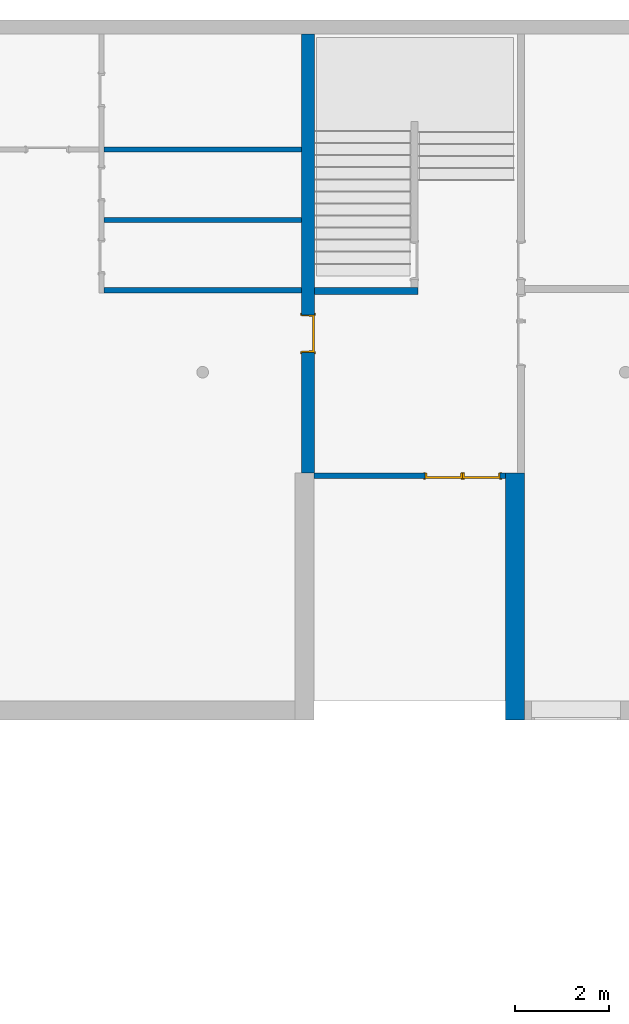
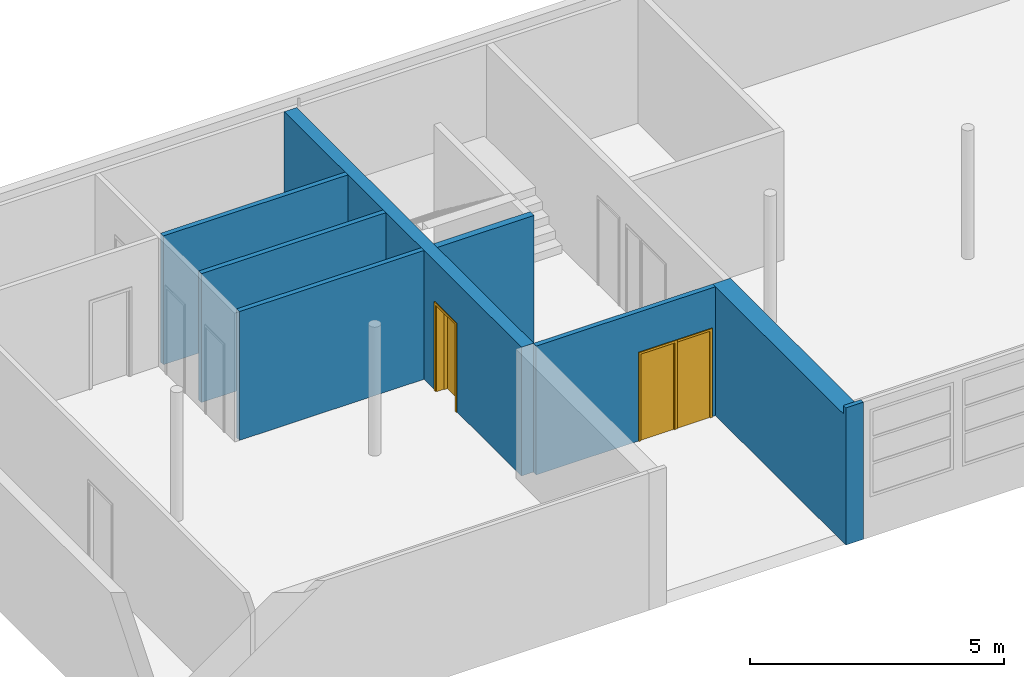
# One storey, part 14 of 25: 7 walls, 3 doors, 3 openings.
"""IFC2X3 building model written with IfcOpenShell, lengths in millimetres."""

from ifc_helpers import new_model, entity, si_unit, converted_unit, derived_unit, money_unit, direction, frame, origin_with_axes, place, context, subcontext, project, spatial, faceted_brep, material, type_object, element, fill, save


model = new_model("IFC2X3")

# Units and contexts
model_context = context("Model", 3, precision=0.01, world=origin_with_axes(), true_north=direction((0.0, 1.0)))
body_context = subcontext(model_context, "Body", "Model", "MODEL_VIEW")
ifc_project = project(units=[si_unit("LENGTHUNIT", "METRE", prefix="MILLI"), si_unit("AREAUNIT", "SQUARE_METRE"), si_unit("VOLUMEUNIT", "CUBIC_METRE"), converted_unit("PLANEANGLEUNIT", "DEGREE", entity("IfcPlaneAngleMeasure", 0.0174532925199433), si_unit("PLANEANGLEUNIT", "RADIAN"), dimensions=[0, 0, 0, 0, 0, 0, 0]), money_unit("USD"), converted_unit("TIMEUNIT", "Year", entity("IfcTimeMeasure", 31557600.0), si_unit("TIMEUNIT", "SECOND"), dimensions=[0, 0, 1, 0, 0, 0, 0]), si_unit("MASSUNIT", "GRAM", prefix="KILO"), si_unit("THERMODYNAMICTEMPERATUREUNIT", "DEGREE_CELSIUS"), si_unit("LUMINOUSINTENSITYUNIT", "LUMEN"), si_unit("ENERGYUNIT", "JOULE", prefix="MEGA"), derived_unit("THERMALCONDUCTANCEUNIT", [(si_unit("POWERUNIT", "WATT"), 1), (si_unit("LENGTHUNIT", "METRE"), -1), (si_unit("THERMODYNAMICTEMPERATUREUNIT", "KELVIN"), -1)]), derived_unit("SPECIFICHEATCAPACITYUNIT", [(si_unit("ENERGYUNIT", "JOULE"), 1), (si_unit("MASSUNIT", "GRAM", prefix="KILO"), -1), (si_unit("THERMODYNAMICTEMPERATUREUNIT", "KELVIN"), -1)]), derived_unit("MASSDENSITYUNIT", [(si_unit("MASSUNIT", "GRAM", prefix="KILO"), 1), (si_unit("VOLUMEUNIT", "CUBIC_METRE"), -1)])], contexts=[model_context])

# Site, building, storey
site_placement = place(None, origin_with_axes())
site = spatial("IfcSite", under=ifc_project, at=site_placement, Name="Site", CompositionType="ELEMENT")
building_placement = place(site_placement, origin_with_axes())
building = spatial("IfcBuilding", under=site, at=building_placement, Name="Building", CompositionType="ELEMENT")
storey_placement = place(building_placement, origin_with_axes())
storey = spatial("IfcBuildingStorey", under=building, at=storey_placement, Name="U ETG", CompositionType="ELEMENT", Elevation=0.0)

# Walls
ifc_material_1 = material(Name="GENERIC - INTERNAL FILLER")
wall_type_1 = type_object("IfcWallType", Name="GENERIC - INTERNAL FILLER 110", PredefinedType="NOTDEFINED")
wall_1_placement = place(storey_placement, frame((15900.00000000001, 16300.0, 0.0), z_axis=(0.0, 0.0, 1.0), x_axis=(1.0, 0.0, 0.0)))
element("IfcWall", 1, at=wall_1_placement, inside=storey, type_object=wall_type_1, material=ifc_material_1, Name="SW - 001", context=body_context, shape_type="Brep", body=[
    faceted_brep([(0.0, -109.9999999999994, 3100.0), (4200.000000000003, -109.9999999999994, 3100.0), (4200.000000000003, 0.0, 3100.0), (0.0, 0.0, 3100.0), (0.0, -109.9999999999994, 0.0), (4200.000000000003, -109.9999999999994, 0.0), (4200.000000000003, 0.0, 0.0), (0.0, 0.0, 0.0)], [[[0, 1, 2, 3]], [[4, 5, 1, 0]], [[5, 6, 2, 1]], [[3, 2, 6, 7]], [[4, 0, 3, 7]], [[7, 6, 5, 4]]]),
])
for number, where, z_axis, x_axis, name in (
    (2, (15900.00000000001, 19300.0, 0.0), (0.0, 0.0, 1.0), (1.0, 0.0, 0.0), "SW - 001"),
    (3, (15900.00000000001, 17800.0, 0.0), (0.0, 0.0, 1.0), (1.0, 0.0, 0.0), "SW - 001"),
):
    element("IfcWall", number, at=place(storey_placement, frame(where, z_axis=z_axis, x_axis=x_axis)), inside=storey, type_object=wall_type_1, material=ifc_material_1, Name=name, context=body_context, shape_type="Brep", body=[
        faceted_brep([(4200.000000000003, -109.9999999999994, 3100.0), (4200.000000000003, 0.0, 3100.0), (0.0, 0.0, 3100.0), (0.0, -109.9999999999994, 3100.0), (4200.000000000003, -109.9999999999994, 0.0), (4200.000000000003, 0.0, 0.0), (0.0, 0.0, 0.0), (0.0, -109.9999999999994, 0.0)], [[[0, 1, 2, 3]], [[1, 0, 4, 5]], [[1, 5, 6, 2]], [[7, 3, 2, 6]], [[4, 0, 3, 7]], [[5, 4, 7, 6]]]),
    ])
ifc_material_2 = material(Name="GENERIC - STRUCTURAL")
wall_type_2 = type_object("IfcWallType", Name="GENERIC - STRUCTURAL 400", PredefinedType="NOTDEFINED")
wall_2_placement = place(storey_placement, frame((24849.99999999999, 12349.5709291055, 0.0), z_axis=(0.0, 0.0, 1.0), x_axis=(0.0, -1.0, 0.0)))
element("IfcWall", 4, at=wall_2_placement, inside=storey, type_object=wall_type_2, material=ifc_material_2, Name="SW - 001", context=body_context, shape_type="Brep", body=[
    faceted_brep([(0.0, -399.9999999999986, 0.0), (0.0, -399.9999999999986, 3100.0), (0.0, 0.0, 3100.0), (0.0, 0.0, 0.0), (5149.695952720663, -400.0000000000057, 3300.0), (5149.695952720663, -399.9999999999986, 3100.0), (5250.000000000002, -400.0000000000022, 0.0), (5250.000000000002, -400.0000000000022, 3300.0), (5149.695952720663, 0.0, 3100.0), (5149.695952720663, 0.0, 3300.0), (5250.000000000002, 0.0, 3300.0), (5250.000000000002, 0.0, 0.0)], [[[0, 1, 2, 3]], [[4, 5, 1, 0, 6, 7]], [[5, 8, 2, 1]], [[2, 8, 9, 10, 11, 3]], [[3, 11, 6, 0]], [[5, 4, 9, 8]], [[7, 6, 11, 10]], [[10, 9, 4, 7]]]),
])

# Wall, openings, doors
wall_type_3 = type_object("IfcWallType", Name="GENERIC - STRUCTURAL 110", PredefinedType="NOTDEFINED")
wall_3_placement = place(storey_placement, frame((19970.0, 12349.5709291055, 0.0), z_axis=(0.0, 0.0, 1.0), x_axis=(1.0, 0.0, 0.0)))
wall_3 = element("IfcWall", 5, at=wall_3_placement, inside=storey, type_object=wall_type_3, material=ifc_material_2, Name="SW - 001", context=body_context, shape_type="Brep", body=[
    faceted_brep([(3563.53347898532, -109.9999999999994, 2100.0), (2763.533478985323, -109.9999999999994, 2100.0), (2763.533478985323, 0.0, 2100.0), (3563.53347898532, 0.0, 2100.0), (4363.533478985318, 0.0, 2100.0), (4363.533478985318, -109.9999999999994, 2100.0), (4363.533478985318, -109.9999999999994, 0.0), (4479.999999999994, -109.9999999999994, 0.0), (4479.999999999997, -109.9999999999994, 3100.0), (399.9999999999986, -109.9999999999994, 3100.0), (399.9999999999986, -109.9999999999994, 0.0), (2763.533478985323, -109.9999999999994, 0.0), (2763.533478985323, 0.0, 0.0), (399.9999999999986, 0.0, 0.0), (399.9999999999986, 0.0, 3100.0), (4479.999999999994, 0.0, 3100.0), (4479.999999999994, 0.0, 0.0), (4363.533478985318, 0.0, 0.0)], [[[0, 1, 2, 3, 4, 5]], [[1, 0, 5, 6, 7, 8, 9, 10, 11]], [[12, 2, 1, 11]], [[2, 12, 13, 14, 15, 16, 17, 4, 3]], [[17, 6, 5, 4]], [[17, 16, 7, 6]], [[8, 7, 16, 15]], [[15, 14, 9, 8]], [[14, 13, 10, 9]], [[12, 11, 10, 13]]]),
])
opening_1_placement = place(wall_3_placement, frame((3963.533478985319, 0.0, 0.0), z_axis=(0.0, 0.0, 1.0), x_axis=(1.0, 0.0, 0.0)))
opening_1 = element("IfcOpeningElement", 6, at=opening_1_placement, cuts=wall_3, Name="DOO - 002", context=body_context, shape_type="Brep", body=[
    faceted_brep([(-399.9999999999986, -109.9999999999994, 2100.0), (399.9999999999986, -109.9999999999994, 2100.0), (399.9999999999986, 0.0, 2100.0), (-399.9999999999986, 0.0, 2100.0), (399.9999999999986, -109.9999999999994, 0.0), (-399.9999999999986, -109.9999999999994, 0.0), (-437.0000000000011, -109.9999999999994, 0.0), (-437.0000000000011, -109.9999999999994, 2137.0), (437.0000000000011, -109.9999999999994, 2137.0), (437.0000000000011, -109.9999999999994, 0.0), (399.9999999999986, 0.0, 0.0), (437.0000000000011, 0.0, 0.0), (437.0000000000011, 0.0, 2137.0), (-437.0000000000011, 0.0, 2137.0), (-437.0000000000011, 0.0, 0.0), (-399.9999999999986, 0.0, 0.0), (-399.9999999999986, -110.9999999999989, 0.0), (-437.0000000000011, -110.9999999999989, 0.0), (-437.0000000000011, -110.9999999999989, 2137.0), (437.0000000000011, -110.9999999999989, 2137.0), (437.0000000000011, -110.9999999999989, 0.0), (399.9999999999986, -110.9999999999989, 0.0), (-399.9999999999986, 0.9999999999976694, 0.0), (399.9999999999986, 0.9999999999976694, 0.0), (437.0000000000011, 0.9999999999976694, 0.0), (437.0000000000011, 0.9999999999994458, 2137.0), (-437.0000000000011, 0.9999999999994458, 2137.0), (-437.0000000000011, 0.9999999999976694, 0.0), (-399.9999999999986, -110.9999999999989, 2100.0), (399.9999999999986, -110.9999999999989, 2100.0)], [[[0, 1, 2, 3]], [[4, 1, 0, 5, 6, 7, 8, 9]], [[1, 4, 10, 2]], [[3, 2, 10, 11, 12, 13, 14, 15]], [[5, 0, 3, 15]], [[5, 16, 17, 6]], [[7, 6, 17, 18]], [[8, 7, 18, 19]], [[9, 8, 19, 20]], [[21, 4, 9, 20]], [[16, 5, 15, 22, 23, 10, 4, 21]], [[10, 23, 24, 11]], [[12, 11, 24, 25]], [[13, 12, 25, 26]], [[14, 13, 26, 27]], [[22, 15, 14, 27]], [[28, 29, 21, 20, 19, 18, 17, 16]], [[23, 22, 27, 26, 25, 24]], [[28, 16, 21, 29]]]),
])
opening_2_placement = place(wall_3_placement, frame((3163.533478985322, 0.0, 0.0), z_axis=(0.0, 0.0, 1.0), x_axis=(1.0, 0.0, 0.0)))
opening_2 = element("IfcOpeningElement", 7, at=opening_2_placement, cuts=wall_3, Name="DOO - 002", context=body_context, shape_type="Brep", body=[
    faceted_brep([(-399.9999999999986, -109.9999999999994, 2100.0), (399.9999999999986, -109.9999999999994, 2100.0), (399.9999999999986, 0.0, 2100.0), (-399.9999999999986, 0.0, 2100.0), (399.9999999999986, -109.9999999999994, 0.0), (-399.9999999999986, -109.9999999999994, 0.0), (-437.0000000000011, -109.9999999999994, 0.0), (-437.0000000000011, -109.9999999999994, 2137.0), (437.0000000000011, -109.9999999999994, 2137.0), (437.0000000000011, -109.9999999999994, 0.0), (399.9999999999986, 0.0, 0.0), (437.0000000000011, 0.0, 0.0), (437.0000000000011, 0.0, 2137.0), (-437.0000000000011, 0.0, 2137.0), (-437.0000000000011, 0.0, 0.0), (-399.9999999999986, 0.0, 0.0), (-399.9999999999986, -110.9999999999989, 0.0), (-437.0000000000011, -110.9999999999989, 0.0), (-437.0000000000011, -110.9999999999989, 2137.0), (437.0000000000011, -110.9999999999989, 2137.0), (437.0000000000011, -110.9999999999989, 0.0), (399.9999999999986, -110.9999999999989, 0.0), (-399.9999999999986, 0.9999999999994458, 0.0), (399.9999999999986, 0.9999999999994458, 0.0), (437.0000000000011, 0.9999999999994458, 0.0), (437.0000000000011, 1.000000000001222, 2137.0), (-437.0000000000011, 1.000000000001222, 2137.0), (-437.0000000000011, 0.9999999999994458, 0.0), (-399.9999999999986, -110.9999999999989, 2100.0), (399.9999999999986, -110.9999999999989, 2100.0)], [[[0, 1, 2, 3]], [[4, 1, 0, 5, 6, 7, 8, 9]], [[1, 4, 10, 2]], [[3, 2, 10, 11, 12, 13, 14, 15]], [[5, 0, 3, 15]], [[5, 16, 17, 6]], [[7, 6, 17, 18]], [[8, 7, 18, 19]], [[9, 8, 19, 20]], [[21, 4, 9, 20]], [[16, 5, 15, 22, 23, 10, 4, 21]], [[10, 23, 24, 11]], [[12, 11, 24, 25]], [[13, 12, 25, 26]], [[14, 13, 26, 27]], [[22, 15, 14, 27]], [[28, 29, 21, 20, 19, 18, 17, 16]], [[23, 22, 27, 26, 25, 24]], [[28, 16, 21, 29]]]),
])
door_style_1 = type_object("IfcDoorStyle", Name="Dør", ConstructionType="NOTDEFINED", OperationType="SINGLE_SWING_LEFT", ParameterTakesPrecedence=False, Sizeable=False)
door_1_placement = place(opening_1_placement, frame((399.9999999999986, 0.0, 0.0), z_axis=(0.0, 0.0, 1.0), x_axis=(-1.0, 0.0, 0.0)))
door_1 = element("IfcDoor", 8, at=door_1_placement, inside=storey, type_object=door_style_1, Name="DOO - 002", ObjectType="DOOR", OverallHeight=2100.0, OverallWidth=800.0, context=body_context, shape_type="Brep", body=[
    faceted_brep([(836.9999999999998, -19.00000000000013, 0.0), (786.9999999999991, -19.00000000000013, 0.0), (786.9999999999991, 0.0, 0.0), (836.9999999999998, 0.0, 0.0), (836.9999999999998, -19.0000000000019, 2137.0), (786.9999999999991, -19.0000000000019, 2087.0), (786.9999999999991, 0.0, 2087.0), (836.9999999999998, 0.0, 2137.0)], [[[0, 1, 2, 3]], [[0, 4, 5, 1]], [[1, 5, 6, 2]], [[3, 2, 6, 7]], [[4, 0, 3, 7]], [[5, 4, 7, 6]]]),
    faceted_brep([(-37.00000000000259, -19.00000000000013, 2137.0), (12.99999999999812, -19.00000000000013, 2087.0), (12.99999999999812, 0.0, 2087.0), (-37.00000000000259, 0.0, 2137.0), (-37.00000000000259, -19.00000000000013, 0.0), (12.99999999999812, -19.00000000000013, 0.0), (12.99999999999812, 0.0, 0.0), (-37.00000000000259, 0.0, 0.0)], [[[0, 1, 2, 3]], [[0, 4, 5, 1]], [[1, 5, 6, 2]], [[3, 2, 6, 7]], [[4, 0, 3, 7]], [[5, 4, 7, 6]]]),
    faceted_brep([(836.9999999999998, -19.0000000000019, 2137.0), (786.9999999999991, -19.0000000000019, 2087.0), (786.9999999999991, 0.0, 2087.0), (836.9999999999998, 0.0, 2137.0), (-37.00000000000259, -19.00000000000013, 2137.0), (12.99999999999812, -19.00000000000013, 2087.0), (12.99999999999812, 0.0, 2087.0), (-37.00000000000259, 0.0, 2137.0)], [[[0, 1, 2, 3]], [[0, 4, 5, 1]], [[1, 5, 6, 2]], [[3, 2, 6, 7]], [[4, 0, 3, 7]], [[5, 4, 7, 6]]]),
    faceted_brep([(836.9999999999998, 128.9999999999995, 0.0), (836.9999999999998, 109.9999999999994, 0.0), (786.9999999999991, 109.9999999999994, 0.0), (786.9999999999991, 128.9999999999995, 0.0), (836.9999999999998, 128.9999999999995, 2137.0), (836.9999999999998, 109.9999999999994, 2137.0), (786.9999999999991, 109.9999999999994, 2087.0), (786.9999999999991, 128.9999999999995, 2087.0)], [[[0, 1, 2, 3]], [[4, 5, 1, 0]], [[1, 5, 6, 2]], [[3, 2, 6, 7]], [[0, 3, 7, 4]], [[7, 6, 5, 4]]]),
    faceted_brep([(-37.00000000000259, 128.9999999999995, 2137.0), (-37.00000000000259, 109.9999999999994, 2137.0), (12.99999999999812, 109.9999999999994, 2087.0), (12.99999999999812, 128.9999999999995, 2087.0), (-37.00000000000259, 128.9999999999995, 0.0), (-37.00000000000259, 109.9999999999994, 0.0), (12.99999999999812, 109.9999999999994, 0.0), (12.99999999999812, 128.9999999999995, 0.0)], [[[0, 1, 2, 3]], [[4, 5, 1, 0]], [[1, 5, 6, 2]], [[3, 2, 6, 7]], [[0, 3, 7, 4]], [[7, 6, 5, 4]]]),
    faceted_brep([(836.9999999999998, 128.9999999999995, 2137.0), (836.9999999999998, 109.9999999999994, 2137.0), (786.9999999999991, 109.9999999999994, 2087.0), (786.9999999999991, 128.9999999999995, 2087.0), (-37.00000000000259, 128.9999999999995, 2137.0), (-37.00000000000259, 109.9999999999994, 2137.0), (12.99999999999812, 109.9999999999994, 2087.0), (12.99999999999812, 128.9999999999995, 2087.0)], [[[0, 1, 2, 3]], [[4, 5, 1, 0]], [[1, 5, 6, 2]], [[3, 2, 6, 7]], [[0, 3, 7, 4]], [[7, 6, 5, 4]]]),
    faceted_brep([(799.9999999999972, 109.9999999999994, 0.0), (799.9999999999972, -5.000000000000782, 0.0), (759.999999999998, -5.000000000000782, 0.0), (759.999999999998, 109.9999999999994, 0.0), (799.9999999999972, 109.9999999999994, 2060.0), (799.9999999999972, -5.000000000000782, 2060.0), (759.999999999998, -5.000000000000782, 2060.0), (759.999999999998, 109.9999999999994, 2060.0)], [[[0, 1, 2, 3]], [[4, 5, 1, 0]], [[1, 5, 6, 2]], [[3, 2, 6, 7]], [[0, 3, 7, 4]], [[7, 6, 5, 4]]]),
    faceted_brep([(0.0, 109.9999999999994, 0.0), (0.0, -5.000000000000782, 0.0), (0.0, -5.000000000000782, 2060.0), (0.0, 109.9999999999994, 2060.0), (39.99999999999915, 109.9999999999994, 0.0), (39.99999999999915, -5.000000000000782, 0.0), (39.99999999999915, -5.000000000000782, 2060.0), (39.99999999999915, 109.9999999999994, 2060.0)], [[[0, 1, 2, 3]], [[4, 5, 1, 0]], [[1, 5, 6, 2]], [[3, 2, 6, 7]], [[0, 3, 7, 4]], [[7, 6, 5, 4]]]),
    faceted_brep([(799.9999999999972, 109.9999999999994, 2100.0), (799.9999999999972, -5.000000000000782, 2100.0), (799.9999999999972, -5.000000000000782, 2060.0), (799.9999999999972, 109.9999999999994, 2060.0), (0.0, 109.9999999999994, 2100.0), (0.0, -5.000000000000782, 2100.0), (0.0, -5.000000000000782, 2060.0), (39.99999999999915, -5.000000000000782, 2060.0), (759.999999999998, -5.000000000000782, 2060.0), (759.999999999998, 109.9999999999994, 2060.0), (39.99999999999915, 109.9999999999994, 2060.0), (0.0, 109.9999999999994, 2060.0)], [[[0, 1, 2, 3]], [[4, 5, 1, 0]], [[1, 5, 6, 7, 8, 2]], [[3, 2, 8, 9]], [[0, 3, 9, 10, 11, 4]], [[11, 6, 5, 4]], [[10, 7, 6, 11]], [[9, 8, 7, 10]]]),
    faceted_brep([(39.99999999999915, 109.9999999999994, 0.0), (759.999999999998, 109.9999999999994, 0.0), (759.999999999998, 69.99999999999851, 0.0), (39.99999999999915, 70.00000000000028, 0.0), (39.99999999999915, 109.9999999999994, 2060.0), (759.999999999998, 109.9999999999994, 2060.0), (759.999999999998, 69.99999999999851, 2060.0), (39.99999999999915, 69.99999999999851, 2060.0)], [[[0, 1, 2, 3]], [[0, 4, 5, 1]], [[1, 5, 6, 2]], [[3, 2, 6, 7]], [[4, 0, 3, 7]], [[5, 4, 7, 6]]]),
])
fill(opening_1, door_1)
door_style_2 = type_object("IfcDoorStyle", Name="Dør", ConstructionType="NOTDEFINED", OperationType="SINGLE_SWING_RIGHT", ParameterTakesPrecedence=False, Sizeable=False)
door_2_placement = place(opening_2_placement, frame((399.9999999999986, 0.0, 0.0), z_axis=(0.0, 0.0, 1.0), x_axis=(-1.0, 0.0, 0.0)))
door_2 = element("IfcDoor", 9, at=door_2_placement, inside=storey, type_object=door_style_2, Name="DOO - 002", ObjectType="DOOR", OverallHeight=2100.0, OverallWidth=800.0, context=body_context, shape_type="Brep", body=[
    faceted_brep([(-37.00000000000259, -19.00000000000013, 0.0), (-37.00000000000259, 0.0, 0.0), (12.99999999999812, 0.0, 0.0), (12.99999999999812, -19.00000000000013, 0.0), (-37.00000000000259, -19.00000000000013, 2137.0), (-37.00000000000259, 0.0, 2137.0), (12.99999999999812, 0.0, 2087.0), (12.99999999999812, -19.00000000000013, 2087.0)], [[[0, 1, 2, 3]], [[4, 5, 1, 0]], [[1, 5, 6, 2]], [[3, 2, 6, 7]], [[0, 3, 7, 4]], [[7, 6, 5, 4]]]),
    faceted_brep([(836.9999999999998, -19.0000000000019, 2137.0), (836.9999999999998, 0.0, 2137.0), (786.9999999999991, 0.0, 2087.0), (786.9999999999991, -19.0000000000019, 2087.0), (836.9999999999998, -19.00000000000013, 0.0), (836.9999999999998, 0.0, 0.0), (786.9999999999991, 0.0, 0.0), (786.9999999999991, -19.00000000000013, 0.0)], [[[0, 1, 2, 3]], [[4, 5, 1, 0]], [[1, 5, 6, 2]], [[3, 2, 6, 7]], [[0, 3, 7, 4]], [[7, 6, 5, 4]]]),
    faceted_brep([(-37.00000000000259, -19.00000000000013, 2137.0), (-37.00000000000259, 0.0, 2137.0), (12.99999999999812, 0.0, 2087.0), (12.99999999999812, -19.00000000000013, 2087.0), (836.9999999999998, -19.0000000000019, 2137.0), (836.9999999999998, 0.0, 2137.0), (786.9999999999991, 0.0, 2087.0), (786.9999999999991, -19.0000000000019, 2087.0)], [[[0, 1, 2, 3]], [[4, 5, 1, 0]], [[1, 5, 6, 2]], [[3, 2, 6, 7]], [[0, 3, 7, 4]], [[7, 6, 5, 4]]]),
    faceted_brep([(-37.00000000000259, 128.9999999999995, 0.0), (12.99999999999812, 128.9999999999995, 0.0), (12.99999999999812, 109.9999999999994, 0.0), (-37.00000000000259, 109.9999999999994, 0.0), (-37.00000000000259, 128.9999999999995, 2137.0), (12.99999999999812, 128.9999999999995, 2087.0), (12.99999999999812, 109.9999999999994, 2087.0), (-37.00000000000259, 109.9999999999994, 2137.0)], [[[0, 1, 2, 3]], [[0, 4, 5, 1]], [[1, 5, 6, 2]], [[3, 2, 6, 7]], [[4, 0, 3, 7]], [[5, 4, 7, 6]]]),
    faceted_brep([(836.9999999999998, 128.9999999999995, 2137.0), (786.9999999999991, 128.9999999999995, 2087.0), (786.9999999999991, 109.9999999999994, 2087.0), (836.9999999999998, 109.9999999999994, 2137.0), (836.9999999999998, 128.9999999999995, 0.0), (786.9999999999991, 128.9999999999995, 0.0), (786.9999999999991, 109.9999999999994, 0.0), (836.9999999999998, 109.9999999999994, 0.0)], [[[0, 1, 2, 3]], [[0, 4, 5, 1]], [[1, 5, 6, 2]], [[3, 2, 6, 7]], [[4, 0, 3, 7]], [[5, 4, 7, 6]]]),
    faceted_brep([(-37.00000000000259, 128.9999999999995, 2137.0), (12.99999999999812, 128.9999999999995, 2087.0), (12.99999999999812, 109.9999999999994, 2087.0), (-37.00000000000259, 109.9999999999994, 2137.0), (836.9999999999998, 128.9999999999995, 2137.0), (786.9999999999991, 128.9999999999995, 2087.0), (786.9999999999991, 109.9999999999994, 2087.0), (836.9999999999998, 109.9999999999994, 2137.0)], [[[0, 1, 2, 3]], [[0, 4, 5, 1]], [[1, 5, 6, 2]], [[3, 2, 6, 7]], [[4, 0, 3, 7]], [[5, 4, 7, 6]]]),
    faceted_brep([(0.0, 109.9999999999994, 0.0), (39.99999999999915, 109.9999999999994, 0.0), (39.99999999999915, -5.000000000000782, 0.0), (0.0, -5.000000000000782, 0.0), (0.0, 109.9999999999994, 2060.0), (39.99999999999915, 109.9999999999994, 2060.0), (39.99999999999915, -5.000000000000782, 2060.0), (0.0, -5.000000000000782, 2060.0)], [[[0, 1, 2, 3]], [[0, 4, 5, 1]], [[1, 5, 6, 2]], [[3, 2, 6, 7]], [[4, 0, 3, 7]], [[5, 4, 7, 6]]]),
    faceted_brep([(799.9999999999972, 109.9999999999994, 0.0), (799.9999999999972, 109.9999999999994, 2060.0), (799.9999999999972, -5.000000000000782, 2060.0), (799.9999999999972, -5.000000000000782, 0.0), (759.999999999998, 109.9999999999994, 0.0), (759.999999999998, 109.9999999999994, 2060.0), (759.999999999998, -5.000000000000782, 2060.0), (759.999999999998, -5.000000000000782, 0.0)], [[[0, 1, 2, 3]], [[0, 4, 5, 1]], [[1, 5, 6, 2]], [[3, 2, 6, 7]], [[4, 0, 3, 7]], [[5, 4, 7, 6]]]),
    faceted_brep([(0.0, 109.9999999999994, 2100.0), (0.0, 109.9999999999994, 2060.0), (0.0, -5.000000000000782, 2060.0), (0.0, -5.000000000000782, 2100.0), (799.9999999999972, 109.9999999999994, 2100.0), (799.9999999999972, 109.9999999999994, 2060.0), (759.999999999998, 109.9999999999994, 2060.0), (39.99999999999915, 109.9999999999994, 2060.0), (39.99999999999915, -5.000000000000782, 2060.0), (759.999999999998, -5.000000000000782, 2060.0), (799.9999999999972, -5.000000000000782, 2060.0), (799.9999999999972, -5.000000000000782, 2100.0)], [[[0, 1, 2, 3]], [[0, 4, 5, 6, 7, 1]], [[1, 7, 8, 2]], [[3, 2, 8, 9, 10, 11]], [[4, 0, 3, 11]], [[5, 4, 11, 10]], [[6, 5, 10, 9]], [[7, 6, 9, 8]]]),
    faceted_brep([(759.999999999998, 109.9999999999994, 0.0), (759.999999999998, 69.99999999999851, 0.0), (39.99999999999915, 70.00000000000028, 0.0), (39.99999999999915, 109.9999999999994, 0.0), (759.999999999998, 109.9999999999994, 2060.0), (759.999999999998, 69.99999999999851, 2060.0), (39.99999999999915, 69.99999999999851, 2060.0), (39.99999999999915, 109.9999999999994, 2060.0)], [[[0, 1, 2, 3]], [[4, 5, 1, 0]], [[1, 5, 6, 2]], [[3, 2, 6, 7]], [[0, 3, 7, 4]], [[7, 6, 5, 4]]]),
])
fill(opening_2, door_2)

# Wall, opening, door
wall_type_4 = type_object("IfcWallType", Name="GENERIC - INTERNAL FILLER 280", PredefinedType="NOTDEFINED")
wall_4_placement = place(storey_placement, frame((20100.00000000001, 21700.0, 0.0), z_axis=(0.0, 0.0, 1.0), x_axis=(0.0, -1.0, 0.0)))
wall_4 = element("IfcWall", 10, at=wall_4_placement, inside=storey, type_object=wall_type_4, material=ifc_material_1, Name="SW - 001", context=body_context, shape_type="Brep", body=[
    faceted_brep([(6776.690382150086, 279.9999999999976, 0.0), (6776.690382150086, 280.0000000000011, 2100.0), (5976.690382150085, 280.0000000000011, 2100.0), (5976.690382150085, 279.9999999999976, 0.0), (0.0, 280.0000000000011, 0.0), (0.0, 280.0000000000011, 3100.0), (9350.429070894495, 279.9999999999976, 3100.0), (9350.429070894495, 279.9999999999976, 0.0), (6776.690382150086, 0.0, 0.0), (6776.690382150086, 0.0, 2100.0), (5976.690382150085, 0.0, 2100.0), (5976.690382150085, 0.0, 0.0), (0.0, 0.0, 0.0), (0.0, 0.0, 3100.0), (9350.429070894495, 0.0, 3100.0), (9350.429070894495, 0.0, 0.0)], [[[0, 1, 2, 3, 4, 5, 6, 7]], [[1, 0, 8, 9]], [[2, 1, 9, 10]], [[3, 2, 10, 11]], [[3, 11, 12, 4]], [[5, 4, 12, 13]], [[14, 6, 5, 13]], [[15, 7, 6, 14]], [[8, 0, 7, 15]], [[9, 8, 15, 14, 13, 12, 11, 10]]]),
])
opening_3_placement = place(wall_4_placement, frame((6376.690382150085, 0.0, 0.0), z_axis=(0.0, 0.0, 1.0), x_axis=(1.0, 0.0, 0.0)))
opening_3 = element("IfcOpeningElement", 11, at=opening_3_placement, cuts=wall_4, Name="DOO - 002", context=body_context, shape_type="Brep", body=[
    faceted_brep([(-400.0000000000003, 281.0000000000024, 0.0), (-400.0000000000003, 281.0000000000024, 2100.0), (400.0000000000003, 281.0000000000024, 2100.0), (400.0000000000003, 281.0000000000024, 0.0), (-436.9999999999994, 281.0000000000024, 0.0), (-436.9999999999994, 281.0000000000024, 2137.0), (436.9999999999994, 281.0000000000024, 2137.0), (436.9999999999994, 281.0000000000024, 0.0), (-400.0000000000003, 280.0000000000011, 0.0), (400.0000000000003, 280.0000000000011, 0.0), (400.0000000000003, 0.0, 0.0), (400.0000000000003, -1.000000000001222, 0.0), (-400.0000000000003, -1.000000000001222, 0.0), (-400.0000000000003, 0.0, 0.0), (-436.9999999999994, 280.0000000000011, 0.0), (-436.9999999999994, 280.0000000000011, 2137.0), (436.9999999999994, 280.0000000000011, 2137.0), (436.9999999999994, 280.0000000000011, 0.0), (400.0000000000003, 280.0000000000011, 2100.0), (400.0000000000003, 0.0, 2100.0), (436.9999999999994, 0.0, 0.0), (436.9999999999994, -1.000000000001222, 0.0), (436.9999999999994, -1.000000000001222, 2137.0), (-436.9999999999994, -1.000000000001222, 2137.0), (-436.9999999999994, -1.000000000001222, 0.0), (-436.9999999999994, 0.0, 0.0), (-400.0000000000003, 280.0000000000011, 2100.0), (-400.0000000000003, 0.0, 2100.0), (-436.9999999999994, 0.0, 2137.0), (436.9999999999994, 0.0, 2137.0)], [[[0, 1, 2, 3]], [[2, 1, 0, 4, 5, 6, 7, 3]], [[8, 0, 3, 9, 10, 11, 12, 13]], [[0, 8, 14, 4]], [[14, 15, 5, 4]], [[15, 16, 6, 5]], [[16, 17, 7, 6]], [[9, 3, 7, 17]], [[9, 18, 19, 10]], [[11, 10, 20, 21]], [[12, 11, 21, 22, 23, 24]], [[13, 12, 24, 25]], [[26, 8, 13, 27]], [[8, 26, 18, 9, 17, 16, 15, 14]], [[18, 26, 27, 19]], [[19, 27, 13, 25, 28, 29, 20, 10]], [[20, 29, 22, 21]], [[29, 28, 23, 22]], [[28, 25, 24, 23]]]),
])
door_style_3 = type_object("IfcDoorStyle", Name="Dør", ConstructionType="NOTDEFINED", OperationType="SINGLE_SWING_LEFT", ParameterTakesPrecedence=False, Sizeable=False)
door_3_placement = place(opening_3_placement, frame((-400.0000000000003, 0.0, 0.0), z_axis=(0.0, 0.0, 1.0), x_axis=(1.0, 0.0, 0.0)))
door_3 = element("IfcDoor", 12, at=door_3_placement, inside=storey, type_object=door_style_3, Name="DOO - 002", ObjectType="DOOR", OverallHeight=2100.0, OverallWidth=800.0, context=body_context, shape_type="Brep", body=[
    faceted_brep([(800.0000000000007, 165.0000000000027, 0.0), (800.0000000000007, 0.0, 0.0), (775.0000000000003, 0.0, 0.0), (775.0000000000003, 165.0000000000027, 0.0), (800.0000000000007, 165.0000000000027, 2100.0), (800.0000000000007, 0.0, 2100.0), (775.0000000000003, 0.0, 2075.0), (775.0000000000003, 165.0000000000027, 2075.0)], [[[0, 1, 2, 3]], [[4, 5, 1, 0]], [[1, 5, 6, 2]], [[3, 2, 6, 7]], [[0, 3, 7, 4]], [[7, 6, 5, 4]]]),
    faceted_brep([(0.0, 165.0000000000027, 2100.0), (0.0, 0.0, 2100.0), (25.00000000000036, 0.0, 2075.0), (25.00000000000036, 165.0000000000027, 2075.0), (0.0, 165.0000000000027, 0.0), (0.0, 0.0, 0.0), (25.00000000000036, 0.0, 0.0), (25.00000000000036, 165.0000000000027, 0.0)], [[[0, 1, 2, 3]], [[4, 5, 1, 0]], [[1, 5, 6, 2]], [[3, 2, 6, 7]], [[0, 3, 7, 4]], [[7, 6, 5, 4]]]),
    faceted_brep([(775.0000000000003, 165.0000000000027, 2075.0), (775.0000000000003, 0.0, 2075.0), (25.00000000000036, 0.0, 2075.0), (25.00000000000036, 165.0000000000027, 2075.0), (800.0000000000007, 165.0000000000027, 2100.0), (800.0000000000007, 0.0, 2100.0), (0.0, 0.0, 2100.0), (0.0, 165.0000000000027, 2100.0)], [[[0, 1, 2, 3]], [[4, 5, 1, 0]], [[1, 5, 6, 2]], [[3, 2, 6, 7]], [[0, 3, 7, 4]], [[7, 6, 5, 4]]]),
    faceted_brep([(836.9999999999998, -18.99999999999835, 0.0), (787.0000000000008, -18.99999999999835, 0.0), (787.0000000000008, 0.0, 0.0), (836.9999999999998, 0.0, 0.0), (836.9999999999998, -18.99999999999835, 2137.0), (787.0000000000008, -18.99999999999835, 2087.0), (787.0000000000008, 0.0, 2087.0), (836.9999999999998, 0.0, 2137.0)], [[[0, 1, 2, 3]], [[0, 4, 5, 1]], [[1, 5, 6, 2]], [[3, 2, 6, 7]], [[4, 0, 3, 7]], [[5, 4, 7, 6]]]),
    faceted_brep([(-36.99999999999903, -18.99999999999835, 2137.0), (12.9999999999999, -18.99999999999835, 2087.0), (12.9999999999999, 0.0, 2087.0), (-36.99999999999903, 0.0, 2137.0), (-36.99999999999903, -18.99999999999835, 0.0), (12.9999999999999, -18.99999999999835, 0.0), (12.9999999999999, 0.0, 0.0), (-36.99999999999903, 0.0, 0.0)], [[[0, 1, 2, 3]], [[0, 4, 5, 1]], [[1, 5, 6, 2]], [[3, 2, 6, 7]], [[4, 0, 3, 7]], [[5, 4, 7, 6]]]),
    faceted_brep([(836.9999999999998, -18.99999999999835, 2137.0), (787.0000000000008, -18.99999999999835, 2087.0), (787.0000000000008, 0.0, 2087.0), (836.9999999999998, 0.0, 2137.0), (-36.99999999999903, -18.99999999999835, 2137.0), (12.9999999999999, -18.99999999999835, 2087.0), (12.9999999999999, 0.0, 2087.0), (-36.99999999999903, 0.0, 2137.0)], [[[0, 1, 2, 3]], [[0, 4, 5, 1]], [[1, 5, 6, 2]], [[3, 2, 6, 7]], [[4, 0, 3, 7]], [[5, 4, 7, 6]]]),
    faceted_brep([(836.9999999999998, 298.9999999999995, 0.0), (836.9999999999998, 280.0000000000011, 0.0), (787.0000000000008, 280.0000000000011, 0.0), (787.0000000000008, 298.9999999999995, 0.0), (836.9999999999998, 298.9999999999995, 2137.0), (836.9999999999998, 280.0000000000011, 2137.0), (787.0000000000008, 280.0000000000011, 2087.0), (787.0000000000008, 298.9999999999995, 2087.0)], [[[0, 1, 2, 3]], [[4, 5, 1, 0]], [[1, 5, 6, 2]], [[3, 2, 6, 7]], [[0, 3, 7, 4]], [[7, 6, 5, 4]]]),
    faceted_brep([(-36.99999999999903, 298.9999999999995, 2137.0), (-36.99999999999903, 280.0000000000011, 2137.0), (12.9999999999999, 280.0000000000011, 2087.0), (12.9999999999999, 298.9999999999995, 2087.0), (-36.99999999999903, 298.9999999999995, 0.0), (-36.99999999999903, 280.0000000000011, 0.0), (12.9999999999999, 280.0000000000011, 0.0), (12.9999999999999, 298.9999999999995, 0.0)], [[[0, 1, 2, 3]], [[4, 5, 1, 0]], [[1, 5, 6, 2]], [[3, 2, 6, 7]], [[0, 3, 7, 4]], [[7, 6, 5, 4]]]),
    faceted_brep([(836.9999999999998, 298.9999999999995, 2137.0), (836.9999999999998, 280.0000000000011, 2137.0), (787.0000000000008, 280.0000000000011, 2087.0), (787.0000000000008, 298.9999999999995, 2087.0), (-36.99999999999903, 298.9999999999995, 2137.0), (-36.99999999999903, 280.0000000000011, 2137.0), (12.9999999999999, 280.0000000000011, 2087.0), (12.9999999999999, 298.9999999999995, 2087.0)], [[[0, 1, 2, 3]], [[4, 5, 1, 0]], [[1, 5, 6, 2]], [[3, 2, 6, 7]], [[0, 3, 7, 4]], [[7, 6, 5, 4]]]),
    faceted_brep([(800.0000000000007, 280.0000000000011, 0.0), (800.0000000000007, 165.0000000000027, 0.0), (759.9999999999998, 165.0000000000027, 0.0), (759.9999999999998, 280.0000000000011, 0.0), (800.0000000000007, 280.0000000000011, 2060.0), (800.0000000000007, 165.0000000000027, 2060.0), (759.9999999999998, 165.0000000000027, 2060.0), (759.9999999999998, 280.0000000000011, 2060.0)], [[[0, 1, 2, 3]], [[4, 5, 1, 0]], [[1, 5, 6, 2]], [[3, 2, 6, 7]], [[0, 3, 7, 4]], [[7, 6, 5, 4]]]),
    faceted_brep([(0.0, 280.0000000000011, 0.0), (0.0, 165.0000000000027, 0.0), (0.0, 165.0000000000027, 2060.0), (0.0, 280.0000000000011, 2060.0), (40.00000000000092, 280.0000000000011, 0.0), (40.00000000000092, 165.0000000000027, 0.0), (40.00000000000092, 165.0000000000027, 2060.0), (40.00000000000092, 280.0000000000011, 2060.0)], [[[0, 1, 2, 3]], [[4, 5, 1, 0]], [[1, 5, 6, 2]], [[3, 2, 6, 7]], [[0, 3, 7, 4]], [[7, 6, 5, 4]]]),
    faceted_brep([(800.0000000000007, 280.0000000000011, 2100.0), (800.0000000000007, 165.0000000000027, 2100.0), (800.0000000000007, 165.0000000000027, 2060.0), (800.0000000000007, 280.0000000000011, 2060.0), (0.0, 280.0000000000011, 2100.0), (0.0, 165.0000000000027, 2100.0), (0.0, 165.0000000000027, 2060.0), (40.00000000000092, 165.0000000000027, 2060.0), (759.9999999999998, 165.0000000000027, 2060.0), (759.9999999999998, 280.0000000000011, 2060.0), (40.00000000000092, 280.0000000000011, 2060.0), (0.0, 280.0000000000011, 2060.0)], [[[0, 1, 2, 3]], [[4, 5, 1, 0]], [[1, 5, 6, 7, 8, 2]], [[3, 2, 8, 9]], [[0, 3, 9, 10, 11, 4]], [[11, 6, 5, 4]], [[10, 7, 6, 11]], [[9, 8, 7, 10]]]),
    faceted_brep([(40.00000000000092, 280.0000000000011, 0.0), (759.9999999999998, 280.0000000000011, 0.0), (759.9999999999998, 240.000000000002, 0.0), (40.00000000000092, 240.000000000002, 0.0), (40.00000000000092, 280.0000000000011, 2060.0), (759.9999999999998, 280.0000000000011, 2060.0), (759.9999999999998, 240.000000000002, 2060.0), (40.00000000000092, 240.000000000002, 2060.0)], [[[0, 1, 2, 3]], [[0, 4, 5, 1]], [[1, 5, 6, 2]], [[3, 2, 6, 7]], [[4, 0, 3, 7]], [[5, 4, 7, 6]]]),
])
fill(opening_3, door_3)

# Wall
wall_type_5 = type_object("IfcWallType", Name="GENERIC - INTERNAL FILLER 150", PredefinedType="NOTDEFINED")
wall_5_placement = place(storey_placement, frame((20100.00000000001, 16300.0, 0.0), z_axis=(0.0, 0.0, 1.0), x_axis=(1.0, 0.0, 0.0)))
element("IfcWall", 13, at=wall_5_placement, inside=storey, type_object=wall_type_5, material=ifc_material_1, Name="SW - 001", context=body_context, shape_type="Brep", body=[
    faceted_brep([(2479.999999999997, -149.9999999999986, 3100.0), (2479.999999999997, 0.0, 3100.0), (280.0000000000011, 0.0, 3100.0), (280.0000000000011, -149.9999999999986, 3100.0), (2479.999999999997, -149.9999999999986, 0.0), (2479.999999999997, 0.0, 0.0), (280.0000000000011, 0.0, 0.0), (280.0000000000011, -149.9999999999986, 0.0)], [[[0, 1, 2, 3]], [[1, 0, 4, 5]], [[1, 5, 6, 2]], [[7, 3, 2, 6]], [[4, 0, 3, 7]], [[5, 4, 7, 6]]]),
])

save(model, "model.ifc")
